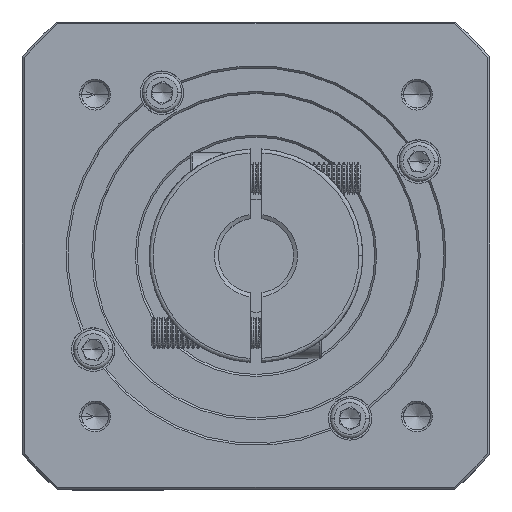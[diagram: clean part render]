
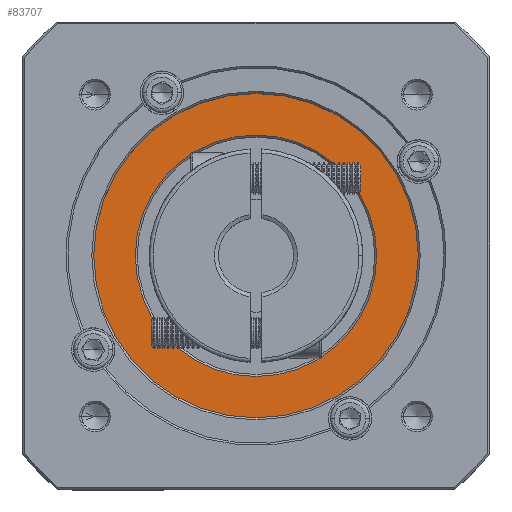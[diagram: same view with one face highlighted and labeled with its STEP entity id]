
A CAD part, top view. The second image highlights one B-rep face of the part: STEP entity #83707.
In plain terms, the highlighted planar face has unit normal (0, 0, 1).
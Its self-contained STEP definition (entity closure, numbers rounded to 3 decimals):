
#4711 = ORIENTED_EDGE ( 'NONE', *, *, #25619, .T. ) ;
#7418 = EDGE_CURVE ( 'NONE', #48468, #63044, #55703, .T. ) ;
#10881 = ORIENTED_EDGE ( 'NONE', *, *, #56880, .T. ) ;
#16289 = AXIS2_PLACEMENT_3D ( 'NONE', #72286, #108426, #54654 ) ;
#18270 = CIRCLE ( 'NONE', #112039, 41. ) ;
#19474 = VERTEX_POINT ( 'NONE', #101963 ) ;
#25468 = CARTESIAN_POINT ( 'NONE',  ( 31.343, -80.873, -54.022 ) ) ;
#25619 = EDGE_CURVE ( 'NONE', #19474, #109182, #18270, .T. ) ;
#29422 = AXIS2_PLACEMENT_3D ( 'NONE', #95176, #60148, #86866 ) ;
#40529 = DIRECTION ( 'NONE',  ( 0., -1., 0. ) ) ;
#41957 = DIRECTION ( 'NONE',  ( 0., 0., 1. ) ) ;
#48468 = VERTEX_POINT ( 'NONE', #105864 ) ;
#49028 = EDGE_LOOP ( 'NONE', ( #4711, #74973 ) ) ;
#54654 = DIRECTION ( 'NONE',  ( 1., 0., 0. ) ) ;
#55703 = CIRCLE ( 'NONE', #29422, 30.5 ) ;
#56880 = EDGE_CURVE ( 'NONE', #63044, #48468, #109773, .T. ) ;
#56952 = CARTESIAN_POINT ( 'NONE',  ( 72.343, -80.873, -54.022 ) ) ;
#59910 = CARTESIAN_POINT ( 'NONE',  ( 72.343, -80.873, -54.022 ) ) ;
#60148 = DIRECTION ( 'NONE',  ( 0., 0., -1. ) ) ;
#63044 = VERTEX_POINT ( 'NONE', #94423 ) ;
#65773 = DIRECTION ( 'NONE',  ( 0., 0., 1. ) ) ;
#72286 = CARTESIAN_POINT ( 'NONE',  ( 72.343, -80.873, -54.022 ) ) ;
#74973 = ORIENTED_EDGE ( 'NONE', *, *, #92349, .T. ) ;
#75592 = CARTESIAN_POINT ( 'NONE',  ( 72.343, -80.873, -54.022 ) ) ;
#83707 = ADVANCED_FACE ( 'NONE', ( #86764, #92457 ), #83884, .T. ) ;
#83884 = PLANE ( 'NONE',  #104556 ) ;
#86764 = FACE_OUTER_BOUND ( 'NONE', #49028, .T. ) ;
#86866 = DIRECTION ( 'NONE',  ( 0., -1., 0. ) ) ;
#87551 = ORIENTED_EDGE ( 'NONE', *, *, #7418, .T. ) ;
#88067 = AXIS2_PLACEMENT_3D ( 'NONE', #56952, #102517, #40529 ) ;
#89803 = CIRCLE ( 'NONE', #16289, 41. ) ;
#92349 = EDGE_CURVE ( 'NONE', #109182, #19474, #89803, .T. ) ;
#92457 = FACE_BOUND ( 'NONE', #96957, .T. ) ;
#92915 = DIRECTION ( 'NONE',  ( 1., 0., 0. ) ) ;
#94423 = CARTESIAN_POINT ( 'NONE',  ( 72.343, -111.373, -54.022 ) ) ;
#95176 = CARTESIAN_POINT ( 'NONE',  ( 72.343, -80.873, -54.022 ) ) ;
#96957 = EDGE_LOOP ( 'NONE', ( #10881, #87551 ) ) ;
#101963 = CARTESIAN_POINT ( 'NONE',  ( 113.343, -80.873, -54.022 ) ) ;
#102517 = DIRECTION ( 'NONE',  ( 0., 0., -1. ) ) ;
#104556 = AXIS2_PLACEMENT_3D ( 'NONE', #75592, #65773, #92915 ) ;
#104716 = DIRECTION ( 'NONE',  ( 1., 0., 0. ) ) ;
#105864 = CARTESIAN_POINT ( 'NONE',  ( 72.343, -50.373, -54.022 ) ) ;
#108426 = DIRECTION ( 'NONE',  ( 0., 0., 1. ) ) ;
#109182 = VERTEX_POINT ( 'NONE', #25468 ) ;
#109773 = CIRCLE ( 'NONE', #88067, 30.5 ) ;
#112039 = AXIS2_PLACEMENT_3D ( 'NONE', #59910, #41957, #104716 ) ;
